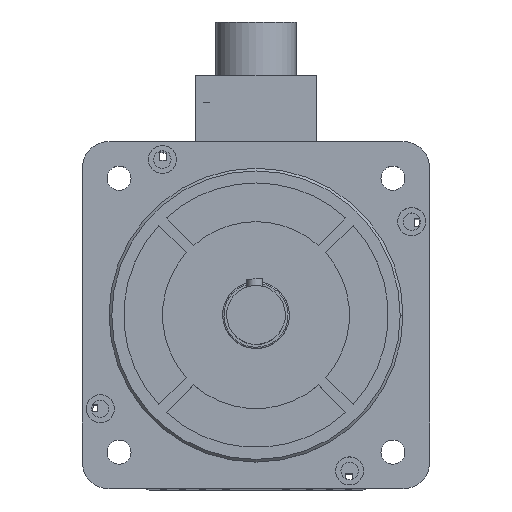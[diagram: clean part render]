
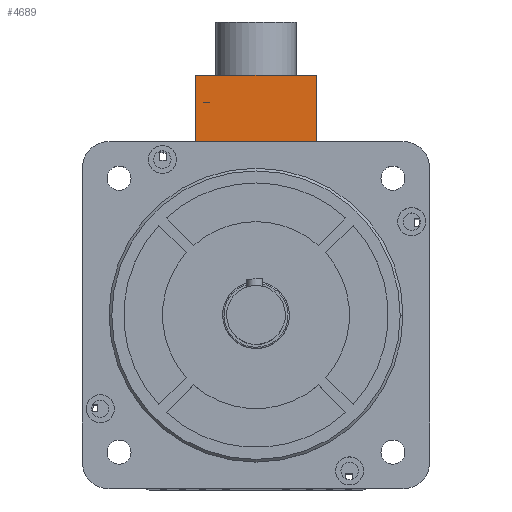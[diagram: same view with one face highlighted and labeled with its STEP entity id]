
A CAD part, top view. The second image highlights one B-rep face of the part: STEP entity #4689.
In plain terms, the highlighted planar face has unit normal (0, 0, 1) as drawn and (0, -1, 0) by its records, which use the part's own axes.
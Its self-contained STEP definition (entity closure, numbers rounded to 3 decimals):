
#68 = VERTEX_POINT ( 'NONE', #22688 ) ;
#638 = ORIENTED_EDGE ( 'NONE', *, *, #15660, .T. ) ;
#847 = EDGE_CURVE ( 'NONE', #17178, #2856, #17219, .T. ) ;
#910 = CARTESIAN_POINT ( 'NONE',  ( 0., 0., -25. ) ) ;
#2856 = VERTEX_POINT ( 'NONE', #20792 ) ;
#2912 = LINE ( 'NONE', #16265, #19706 ) ;
#3176 = LINE ( 'NONE', #17670, #24121 ) ;
#3480 = EDGE_CURVE ( 'NONE', #5154, #17178, #22258, .T. ) ;
#4192 = FACE_OUTER_BOUND ( 'NONE', #24073, .T. ) ;
#4460 = EDGE_CURVE ( 'NONE', #2856, #68, #2912, .T. ) ;
#4689 = ADVANCED_FACE ( 'NONE', ( #4192 ), #7057, .T. ) ;
#5154 = VERTEX_POINT ( 'NONE', #23513 ) ;
#5549 = DIRECTION ( 'NONE',  ( 0., 0., -1. ) ) ;
#7057 = PLANE ( 'NONE',  #25789 ) ;
#9361 = CARTESIAN_POINT ( 'NONE',  ( 0., 0., -25. ) ) ;
#12117 = VECTOR ( 'NONE', #19711, 1000. ) ;
#13219 = DIRECTION ( 'NONE',  ( 0., -1., 0. ) ) ;
#15416 = CARTESIAN_POINT ( 'NONE',  ( 45., 0., -25. ) ) ;
#15417 = DIRECTION ( 'NONE',  ( 1., 0., 0. ) ) ;
#15660 = EDGE_CURVE ( 'NONE', #68, #5154, #3176, .T. ) ;
#16265 = CARTESIAN_POINT ( 'NONE',  ( 0., 0., 0. ) ) ;
#17178 = VERTEX_POINT ( 'NONE', #15416 ) ;
#17219 = LINE ( 'NONE', #17925, #12117 ) ;
#17382 = ORIENTED_EDGE ( 'NONE', *, *, #4460, .T. ) ;
#17670 = CARTESIAN_POINT ( 'NONE',  ( 0., 0., -25. ) ) ;
#17925 = CARTESIAN_POINT ( 'NONE',  ( 45., 0., -25. ) ) ;
#18408 = DIRECTION ( 'NONE',  ( -1., 0., 0. ) ) ;
#19142 = ORIENTED_EDGE ( 'NONE', *, *, #847, .T. ) ;
#19706 = VECTOR ( 'NONE', #18408, 1000. ) ;
#19711 = DIRECTION ( 'NONE',  ( 0., 0., 1. ) ) ;
#20053 = DIRECTION ( 'NONE',  ( 0., 0., -1. ) ) ;
#20792 = CARTESIAN_POINT ( 'NONE',  ( 45., 0., 0. ) ) ;
#21953 = ORIENTED_EDGE ( 'NONE', *, *, #3480, .T. ) ;
#22258 = LINE ( 'NONE', #9361, #24175 ) ;
#22688 = CARTESIAN_POINT ( 'NONE',  ( 0., 0., 0. ) ) ;
#23513 = CARTESIAN_POINT ( 'NONE',  ( 0., 0., -25. ) ) ;
#24073 = EDGE_LOOP ( 'NONE', ( #21953, #19142, #17382, #638 ) ) ;
#24121 = VECTOR ( 'NONE', #5549, 1000. ) ;
#24175 = VECTOR ( 'NONE', #15417, 1000. ) ;
#25789 = AXIS2_PLACEMENT_3D ( 'NONE', #910, #13219, #20053 ) ;
